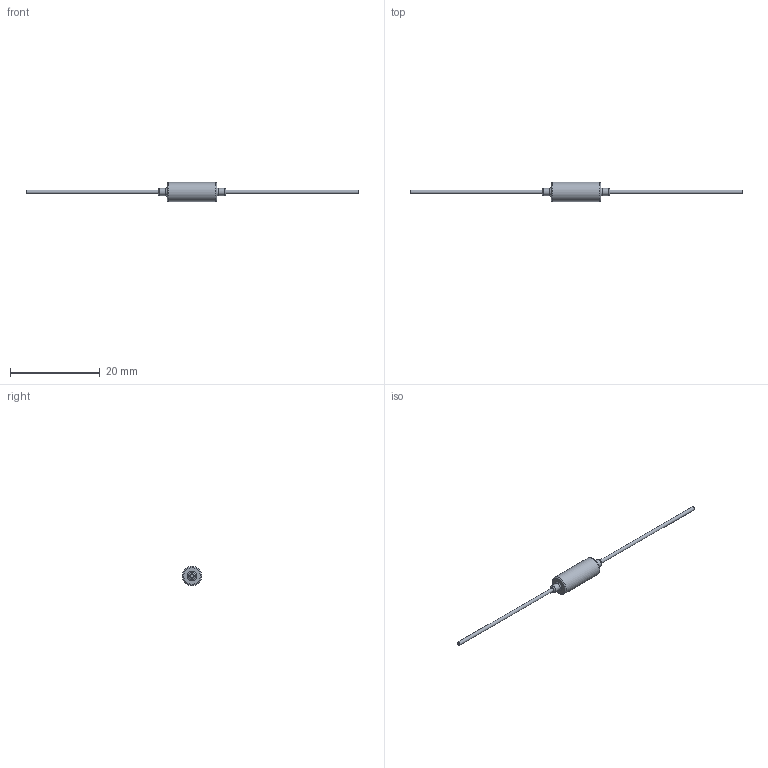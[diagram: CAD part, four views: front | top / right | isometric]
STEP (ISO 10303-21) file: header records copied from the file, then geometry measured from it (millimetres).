
FILE_DESCRIPTION((''),'2;1');
FILE_NAME('P:\Work\User\Special\CAD\Widerstand Serien\AC-Serie\axiale Ausführung\AC0100000XXXXJA100.stp','2015-10-26T07:35:17',('klepschi'),(''),'Autodesk Inventor 2013','Autodesk Inventor 2013','');
FILE_SCHEMA(('AUTOMOTIVE_DESIGN { 1 0 10303 214 1 1 1 1 }'));
Length unit declared in the file: millimetre
Products named in the file (1): AC0100000XXXXJA100
Bounding box: 74 x 4.3 x 4.3 mm (x, y, z)
Volume: 197 mm3; surface area: 339.9 mm2
Topology: 1 solids, 1 shells, 17 faces, 27 edges, 16 vertices
Faces by surface type: torus 6, plane 6, cylinder 5
Full cylindrical faces by diameter (mm): 0.8 x2, 1.6 x2, 4.3 x1
Entity records: 380 total; most frequent: DIRECTION 68, CARTESIAN_POINT 50, AXIS2_PLACEMENT_3D 34, ORIENTED_EDGE 32, EDGE_LOOP 32, FACE_OUTER_BOUND 17, ADVANCED_FACE 17, VERTEX_POINT 16
